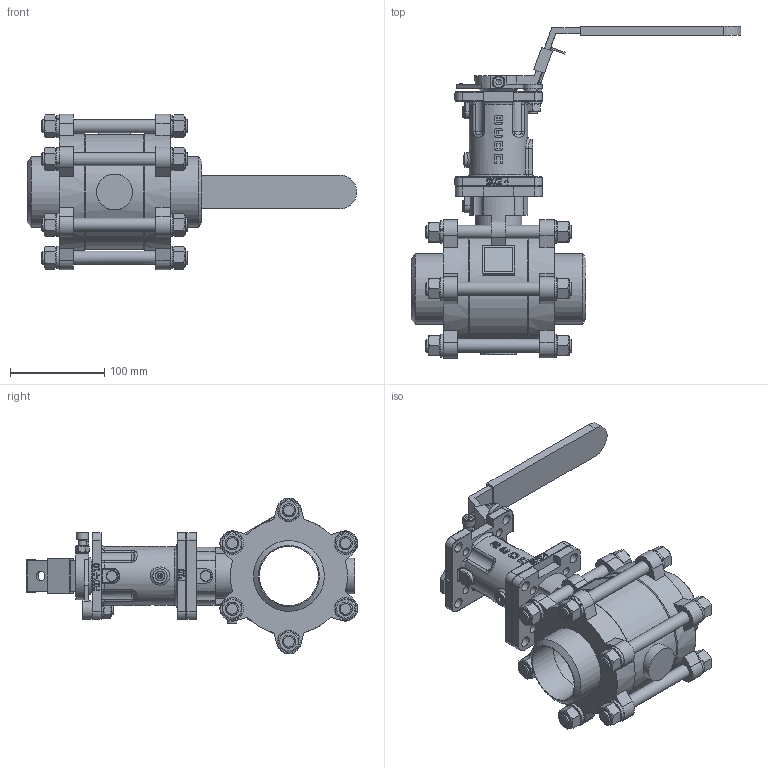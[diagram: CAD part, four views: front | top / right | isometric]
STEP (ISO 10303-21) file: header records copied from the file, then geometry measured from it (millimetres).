
FILE_DESCRIPTION(/* description */ ('Eriks item no: 14229947'),/* implementation_level */ '2;1');
FILE_NAME(/* name */ 'L:\DATA\ENG\Inventor\Econ 3D modellen\kogelkranen\7642 +7412\7642-DN65-FB + 7412-size4.stp',/* time_stamp */ '2024-01-22T16:07:04+01:00',/* author */ ('roger.thijssen'),/* organization */ (''),/* preprocessor_version */ 'ST-DEVELOPER v18',/* originating_system */ 'Autodesk Inventor 2020',/* authorisation */ '');
FILE_SCHEMA (('CONFIG_CONTROL_DESIGN'));
Length unit declared in the file: millimetre
Products named in the file (1): Ball valve + stem ext., 7642-DN65-FB + 7412-size4
Bounding box: 349 x 351.53 x 164.9 mm (x, y, z)
Volume: 2034981.6 mm3; surface area: 320867.2 mm2
Topology: 2 solids, 2 shells, 1351 faces, 3675 edges, 2389 vertices
Faces by surface type: plane 783, cylinder 303, bspline 144, cone 81, torus 37, sphere 3
Full cylindrical faces by diameter (mm): 5 x1, 6.25 x1, 8 x2, 8.6 x1, 9 x8, 10 x4, 11 x13, 12 x2, 13 x1, 14 x18, 15 x15, 19.2 x1, 21.225 x1, 22.225 x1, 25 x1, 33.5 x1, 38 x1, 47 x1, 55 x2, 62 x1, 62.5 x2, 65 x1, 75 x2, 122 x1, 124 x2
Entity records: 47205 total; most frequent: CARTESIAN_POINT 12383, ORIENTED_EDGE 7346, DIRECTION 6518, EDGE_CURVE 3673, VERTEX_POINT 2389, AXIS2_PLACEMENT_3D 2231, LINE 2056, VECTOR 2056
